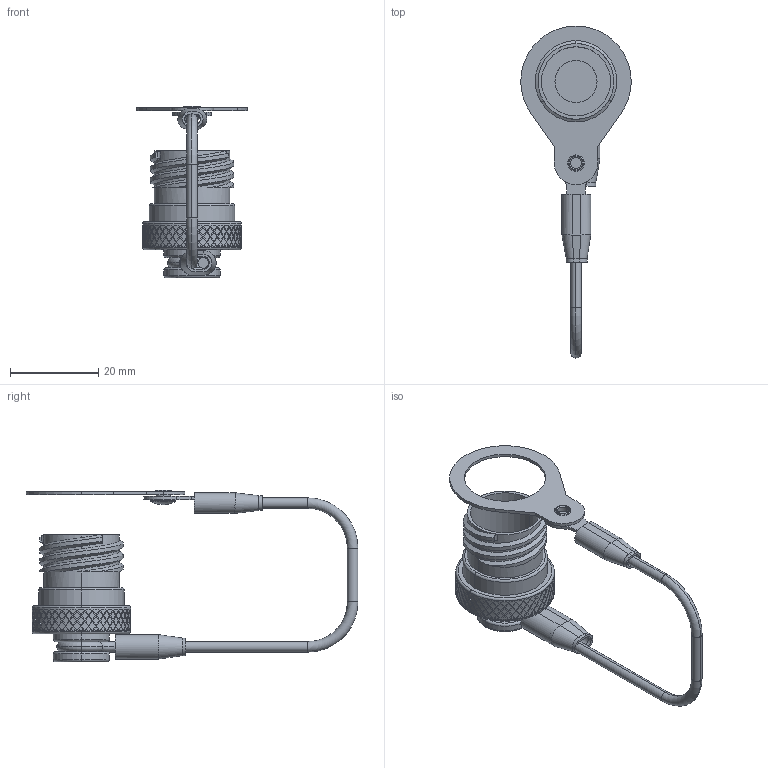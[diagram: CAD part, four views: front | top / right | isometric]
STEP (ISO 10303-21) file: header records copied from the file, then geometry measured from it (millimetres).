
FILE_DESCRIPTION (( 'STEP AP214' ), '1' );
FILE_NAME ('Q38DC-PRX-11-R0.STEP', '2026-04-22T18:34:13', ( '' ), ( '' ), 'SwSTEP 2.0', 'SolidWorks 2024', '' );
FILE_SCHEMA (( 'AUTOMOTIVE_DESIGN' ));
Length unit declared in the file: inch
Products named in the file (11): SW-348; HEAT SHRINK_HS-125-625S; Q38DC-PRX-11-R0; SW-XRXX_SW-SR11; Q38-XX29-P_11P; SW-349_SW-349; LN-06-07-13_Q38DC-PRX-11 (Assembled); Q38-XX28-X_Q38-1128; HEAT SHRINK_HS-250X625_SW-348; SW-347; Lanyard Assembly Q38_Q38DC-PRX-11 (Assembled)
Assembly tree (10 placements, depth 3):
  Q38DC-PRX-11-R0
    Q38-XX28-X_Q38-1128
    Lanyard Assembly Q38_Q38DC-PRX-11 (Assembled)
      LN-06-07-13_Q38DC-PRX-11 (Assembled)
      SW-348
      HEAT SHRINK_HS-250X625_SW-348
      SW-347
      HEAT SHRINK_HS-125-625S
      SW-349_SW-349
      SW-XRXX_SW-SR11
    Q38-XX29-P_11P
Bounding box: 25 x 75.04 x 38.81 mm (x, y, z)
Volume: 5722.4 mm3; surface area: 7831.3 mm2
Topology: 9 solids, 9 shells, 1230 faces, 2947 edges, 1936 vertices
Faces by surface type: plane 887, cylinder 292, torus 32, bspline 17, sphere 2
Entity records: 37764 total; most frequent: CARTESIAN_POINT 12872, ORIENTED_EDGE 5894, DIRECTION 4273, EDGE_CURVE 2947, VERTEX_POINT 1936, AXIS2_PLACEMENT_3D 1612, EDGE_LOOP 1445, ADVANCED_FACE 1230
